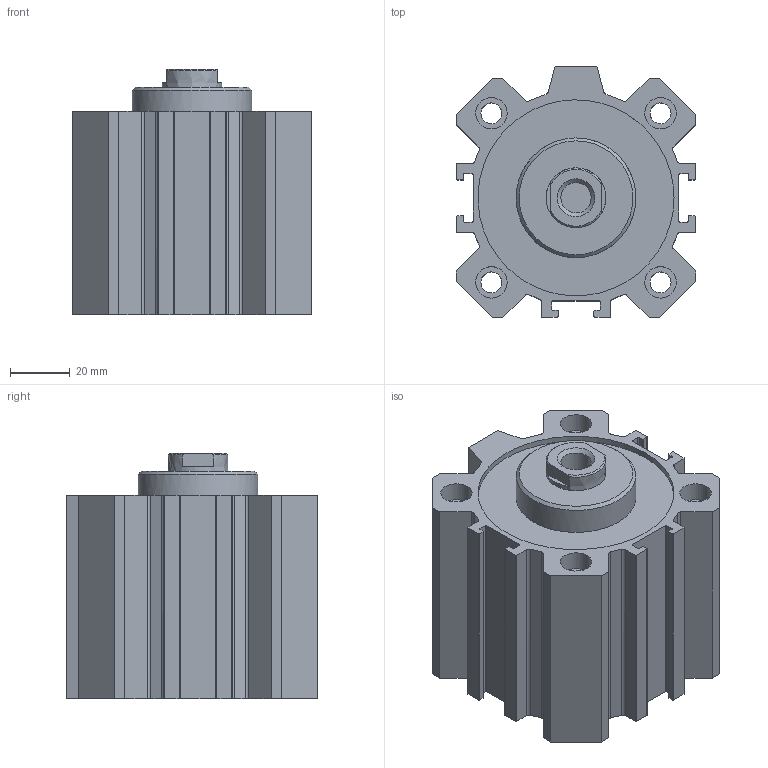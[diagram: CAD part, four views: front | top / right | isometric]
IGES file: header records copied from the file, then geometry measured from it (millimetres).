
Global section: file name: 1511_63_0025; native system: Autodesk Inventor 2014; preprocessor: unknown; author: A. Manieri; date: 20160824.140054; units: millimetre
Bounding box: 80 x 84 x 82 mm (x, y, z)
Volume: 282344.1 mm3; surface area: 75252 mm2
Topology: 2 solids, 2 shells, 165 faces, 443 edges, 300 vertices
Faces by surface type: bspline 165
